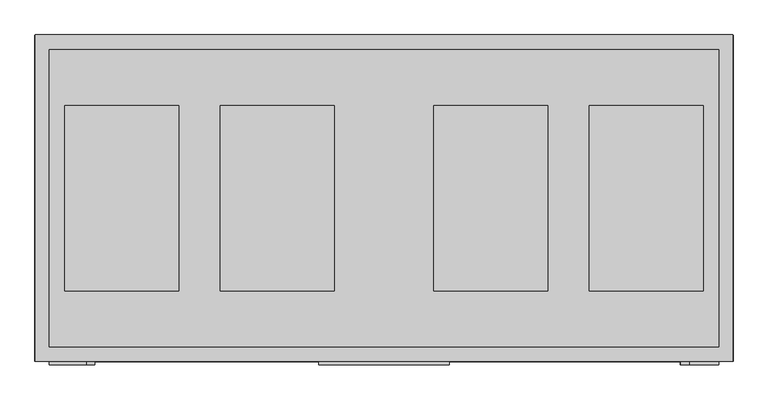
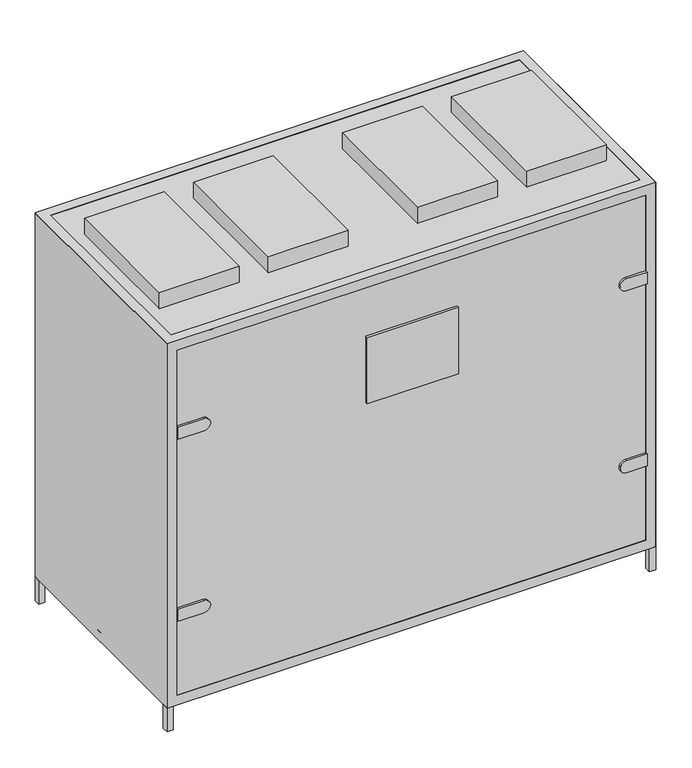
"""IFC4 building model written with IfcOpenShell, lengths in millimetres: proxy geometry, AVS 2200...3800-V-RC(RG) : AVS 2900-V-RC."""

from ifc_helpers import new_model, si_unit, point, frame, frame_2d, origin, origin_with_axes, place, context, project, spatial, polyline, circle_curve, trimmed, segment, composite_curve, outline, extrude, faceted_brep, source, transform, mapped, element, save


def mechanical_equipment_3d6faeaf(model_context):
    return source(origin(), model_context, "Body", "SolidModel", [
        extrude(outline(polyline([(955.0, 458.0), (980.0, 458.0), (980.0, 433.0), (955.0, 433.0), (955.0, 458.0)])), origin_with_axes(), (0.0, 0.0, 1.0), 100.0),
        extrude(outline(polyline([(955.0, -458.0), (955.0, -433.0), (980.0, -433.0), (980.0, -458.0), (955.0, -458.0)])), origin_with_axes(), (0.0, 0.0, 1.0), 100.0),
        extrude(outline(polyline([(-980.0, 433.0), (-980.0, 458.0), (-955.0, 458.0), (-955.0, 433.0), (-980.0, 433.0)])), origin_with_axes(), (0.0, 0.0, 1.0), 100.0),
        extrude(outline(polyline([(-980.0, -433.0), (-955.0, -433.0), (-955.0, -458.0), (-980.0, -458.0), (-980.0, -433.0)])), origin_with_axes(), (0.0, 0.0, 1.0), 100.0),
        faceted_brep([(979.0, 459.0, 1643.0), (-979.0, 459.0, 1643.0), (-979.0, -459.0, 1643.0), (979.0, -459.0, 1643.0), (-940.0, 418.0, 1643.0), (20.0, 418.0, 1643.0), (940.0, 418.0, 1643.0), (940.0, -418.0, 1643.0), (20.0, -418.0, 1643.0), (-940.0, -418.0, 1643.0), (979.0, 459.0, 99.0), (979.0, -459.0, 99.0), (-979.0, -459.0, 99.0), (-979.0, 459.0, 99.0), (20.0, 418.0, 99.0), (-940.0, 418.0, 99.0), (-940.0, -418.0, 99.0), (20.0, -418.0, 99.0), (940.0, -418.0, 99.0), (940.0, 418.0, 99.0), (20.0, 459.0, 1602.0), (-940.0, 459.0, 1602.0), (-940.0, 459.0, 140.0), (20.0, 459.0, 140.0), (940.0, 459.0, 140.0), (940.0, 459.0, 1602.0), (-979.0, -418.0, 1602.0), (-979.0, -418.0, 140.0), (-979.0, 418.0, 140.0), (-979.0, 418.0, 1602.0), (-940.0, -459.0, 1602.0), (20.0, -459.0, 1602.0), (940.0, -459.0, 1602.0), (940.0, -459.0, 140.0), (20.0, -459.0, 140.0), (-940.0, -459.0, 140.0), (-940.0, 418.0, 1602.0), (20.0, 418.0, 1602.0), (20.0, 418.0, 140.0), (-940.0, 418.0, 140.0), (20.0, -418.0, 1602.0), (-940.0, -418.0, 1602.0), (-940.0, -418.0, 140.0), (20.0, -418.0, 140.0), (940.0, 418.0, 1602.0), (940.0, 418.0, 140.0), (940.0, -418.0, 140.0), (940.0, -418.0, 1602.0), (866.0, 418.0, 1602.0), (866.0, 418.0, 140.0), (866.0, -418.0, 1602.0), (866.0, -418.0, 140.0)], [[[0, 1, 2, 3], [4, 5, 6, 7, 8, 9]], [[10, 11, 12, 13], [14, 15, 16, 17, 18, 19]], [[1, 0, 10, 13], [20, 21, 22, 23, 24, 25]], [[2, 1, 13, 12], [26, 27, 28, 29]], [[3, 2, 12, 11], [30, 31, 32, 33, 34, 35]], [[0, 3, 11, 10]], [[5, 4, 36, 37]], [[15, 14, 38, 39]], [[9, 8, 40, 41]], [[17, 16, 42, 43]], [[7, 6, 44, 25, 24, 45, 19, 18, 46, 33, 32, 47]], [[30, 41, 40, 31]], [[20, 37, 36, 21]], [[42, 35, 34, 43]], [[38, 23, 22, 39]], [[26, 41, 42, 27]], [[39, 28, 27, 42]], [[36, 29, 28, 39]], [[29, 36, 41, 26]], [[4, 9, 41, 36]], [[16, 15, 39, 42]], [[41, 30, 35, 42]], [[21, 36, 39, 22]], [[6, 5, 37, 48, 44]], [[14, 19, 45, 49, 38]], [[8, 7, 47, 50, 40]], [[18, 17, 43, 51, 46]], [[47, 32, 31, 40, 50]], [[37, 20, 25, 44, 48]], [[33, 46, 51, 43, 34]], [[23, 38, 49, 45, 24]]]),
        extrude(outline(polyline([(-980.0, 458.0), (980.0, 458.0), (980.0, -458.0), (-980.0, -458.0), (-980.0, 458.0)])), frame((0.0, 0.0, 100.0), z_axis=(0.0, 0.0, 1.0), x_axis=(1.0, 0.0, 0.0)), (0.0, 0.0, 1.0), 1542.0),
        extrude(outline(polyline([(-576.0, 260.0), (-576.0, -260.0), (-896.0, -260.0), (-896.0, 260.0), (-576.0, 260.0)])), frame((0.0, 0.0, 1642.0), z_axis=(0.0, 0.0, 1.0), x_axis=(1.0, 0.0, 0.0)), (0.0, 0.0, 1.0), 68.0),
        extrude(outline(polyline([(-139.0, 260.0), (-139.0, -260.0), (-459.0, -260.0), (-459.0, 260.0), (-139.0, 260.0)])), frame((0.0, 0.0, 1642.0), z_axis=(0.0, 0.0, 1.0), x_axis=(1.0, 0.0, 0.0)), (0.0, 0.0, 1.0), 68.0),
        extrude(outline(polyline([(459.0, 260.0), (459.0, -260.0), (139.0, -260.0), (139.0, 260.0), (459.0, 260.0)])), frame((0.0, 0.0, 1642.0), z_axis=(0.0, 0.0, 1.0), x_axis=(1.0, 0.0, 0.0)), (0.0, 0.0, 1.0), 68.0),
        extrude(outline(polyline([(896.0, 260.0), (896.0, -260.0), (576.0, -260.0), (576.0, 260.0), (896.0, 260.0)])), frame((0.0, 0.0, 1642.0), z_axis=(0.0, 0.0, 1.0), x_axis=(1.0, 0.0, 0.0)), (0.0, 0.0, 1.0), 68.0),
        extrude(outline(composite_curve([segment(polyline([(1281.5, -836.2895396), (1281.5, -940.0), (1231.5, -940.0), (1231.5, -836.2895396)]), True, "CONTINUOUS"), segment(trimmed(circle_curve(frame_2d((1256.5, -836.2895396)), 25.0), [point((1231.5, -836.2895396))], [point((1281.5, -836.2895396))], False, "CARTESIAN"), True, "CONTINUOUS")], self_intersect=False)), frame((0.0, -468.0, 0.0), z_axis=(0.0, 1.0, 0.0), x_axis=(0.0, 0.0, 1.0)), (0.0, 0.0, 1.0), 10.0),
        extrude(outline(composite_curve([segment(polyline([(510.5, -836.2895396), (510.5, -940.0), (460.5, -940.0), (460.5, -836.2895396)]), True, "CONTINUOUS"), segment(trimmed(circle_curve(frame_2d((485.5, -836.2895396)), 25.0), [point((460.5, -836.2895396))], [point((510.5, -836.2895396))], False, "CARTESIAN"), True, "CONTINUOUS")], self_intersect=False)), frame((0.0, -468.0, 0.0), z_axis=(0.0, 1.0, 0.0), x_axis=(0.0, 0.0, 1.0)), (0.0, 0.0, 1.0), 10.0),
        extrude(outline(polyline([(183.159373, -468.0), (-183.159373, -468.0), (-183.159373, -458.0), (183.159373, -458.0), (183.159373, -468.0)])), frame((0.0, 0.0, 1115.8090991), z_axis=(0.0, 0.0, 1.0), x_axis=(1.0, 0.0, 0.0)), (0.0, 0.0, 1.0), 281.3818018),
        extrude(outline(composite_curve([segment(trimmed(circle_curve(frame_2d((1256.5, 857.2895396)), 25.0), [point((1281.5, 857.2895396))], [point((1231.5, 857.2895396))], False, "CARTESIAN"), True, "CONTINUOUS"), segment(polyline([(1231.5, 857.2895396), (1231.5, 940.0), (1281.5, 940.0), (1281.5, 857.2895396)]), True, "CONTINUOUS")], self_intersect=False)), frame((0.0, -468.0, 0.0), z_axis=(0.0, 1.0, 0.0), x_axis=(0.0, 0.0, 1.0)), (0.0, 0.0, 1.0), 10.0),
        extrude(outline(composite_curve([segment(trimmed(circle_curve(frame_2d((485.5, 857.2895396)), 25.0), [point((510.5, 857.2895396))], [point((460.5, 857.2895396))], False, "CARTESIAN"), True, "CONTINUOUS"), segment(polyline([(460.5, 857.2895396), (460.5, 940.0), (510.5, 940.0), (510.5, 857.2895396)]), True, "CONTINUOUS")], self_intersect=False)), frame((0.0, -468.0, 0.0), z_axis=(0.0, 1.0, 0.0), x_axis=(0.0, 0.0, 1.0)), (0.0, 0.0, 1.0), 10.0),
    ])


if __name__ == "__main__":
    model = new_model("IFC4")
    model_context = context("Model", 3, world=origin())
    ifc_project = project(units=[si_unit("LENGTHUNIT", "METRE", prefix="MILLI")], contexts=[model_context])
    site = spatial("IfcSite", under=ifc_project)
    building = spatial("IfcBuilding", under=site)
    placement = place(None, origin())
    mechanical_equipment_shape = mechanical_equipment_3d6faeaf(model_context)
    element("IfcBuildingElementProxy", 1, Name="AVS 2200...3800-V-RC(RG) : AVS 2900-V-RC", ObjectType="AVS 2200...3800-V-RC(RG) : AVS 2900-V-RC", at=placement, inside=building, context=model_context, shape_type="MappedRepresentation", body=[
        mapped(mechanical_equipment_shape, transform((0.0, 0.0, 0.0), x_axis=(1.0, 0.0, 0.0), y_axis=(0.0, 1.0, 0.0), z_axis=(0.0, 0.0, 1.0))),
    ])
    save(model, "model.ifc")
